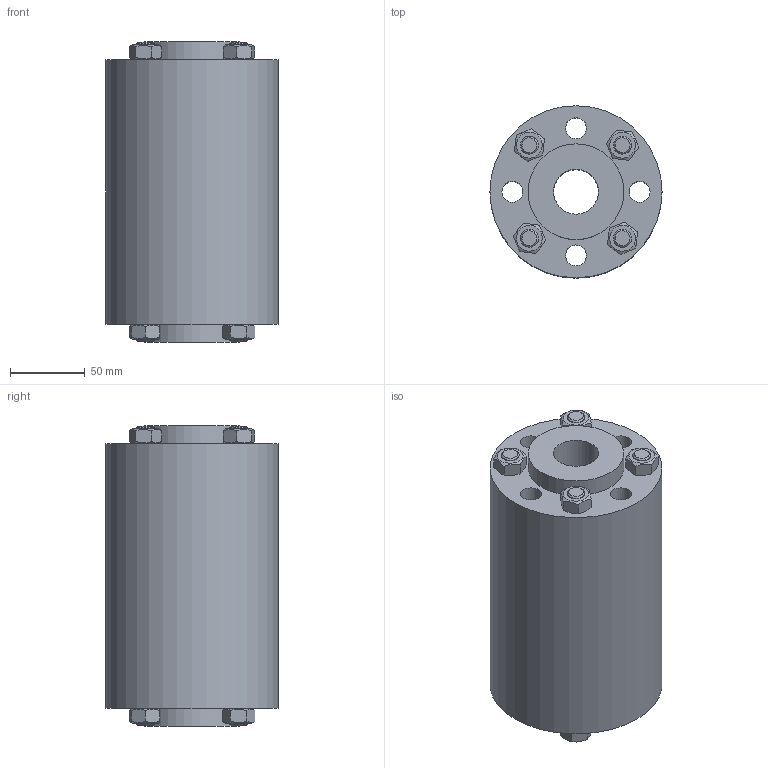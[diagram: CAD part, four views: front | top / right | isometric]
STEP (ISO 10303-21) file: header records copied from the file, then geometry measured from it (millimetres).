
FILE_DESCRIPTION(/* description */ ('ACI TYPE 620 DN25'),/* implementation_level */ '2;1');
FILE_NAME(/* name */ 'C:\Users\willms\Desktop\ACI-620-25.stp',/* time_stamp */ '2020-03-19T10:10:23+01:00',/* author */ ('götz'),/* organization */ ('ACI Industriearmaturen GmbH www.aci24.com info@aci24.com'),/* preprocessor_version */ 'ST-DEVELOPER v16.1',/* originating_system */ 'Autodesk Inventor 2016',/* authorisation */ 'ACI Industriearmaturen GmbH www.aci24.com info@aci24.com');
FILE_SCHEMA (('CONFIG_CONTROL_DESIGN'));
Length unit declared in the file: centimetre
Products named in the file (1): ACI-620-25
Bounding box: 115 x 115 x 201 mm (x, y, z)
Volume: 1690269 mm3; surface area: 143145 mm2
Topology: 1 solids, 9 shells, 140 faces, 313 edges, 201 vertices
Faces by surface type: plane 76, cone 40, cylinder 24
Full cylindrical faces by diameter (mm): 12 x16, 14 x4, 30 x1, 64 x2, 115 x1
Entity records: 3498 total; most frequent: CARTESIAN_POINT 749, DIRECTION 506, ORIENTED_EDGE 464, EDGE_LOOP 240, EDGE_CURVE 232, AXIS2_PLACEMENT_3D 229, VERTEX_POINT 184, FACE_OUTER_BOUND 140
